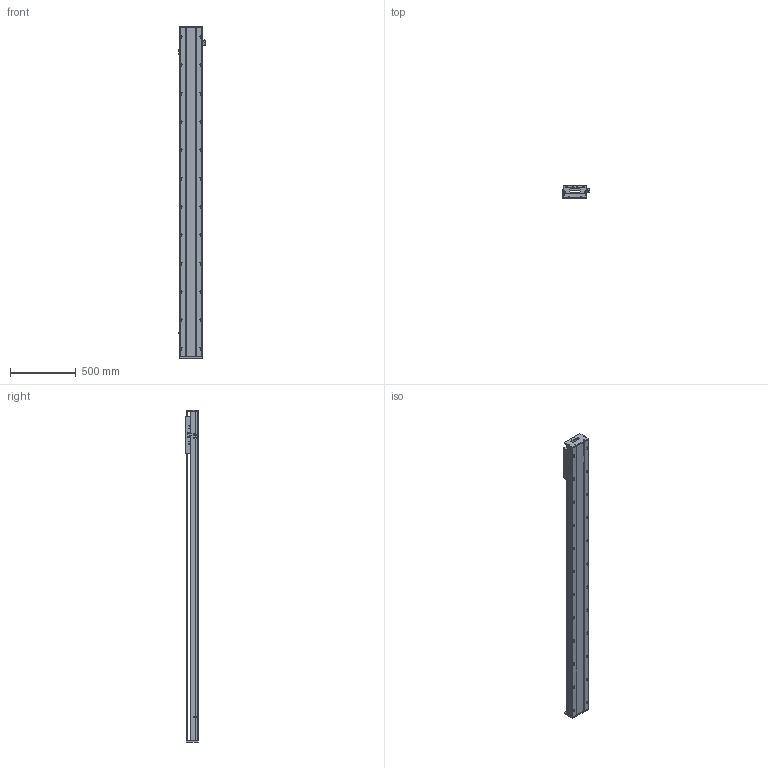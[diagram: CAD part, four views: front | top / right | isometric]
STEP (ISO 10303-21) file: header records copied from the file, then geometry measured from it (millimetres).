
FILE_DESCRIPTION (( 'STEP AP203' ), '1' );
FILE_NAME ('SKR17S-C2-S2152（简）.STEP', '2022-09-29T08:19:34', ( '' ), ( '' ), 'SwSTEP 2.0', 'SolidWorks 2018', '' );
FILE_SCHEMA (( 'CONFIG_CONTROL_DESIGN' ));
Length unit declared in the file: millimetre
Products named in the file (8): SKR17耜啣; SIKO棠掑; SKR17底座-C2-S2152（简); 棠掑假蚾輸; SKR17滑台-280L（简）; SKR17S-C2-S2152（简）; EE-SX672; 感应片（SKR12S-14S-17S）
Assembly tree (10 placements, depth 2):
  SKR17S-C2-S2152（简）
    SKR17底座-C2-S2152（简)
    SIKO棠掑
    EE-SX672  x3
    SKR17耜啣  x2
    棠掑假蚾輸
    SKR17滑台-280L（简）
    感应片（SKR12S-14S-17S）
Bounding box: 212.7 x 97 x 2532 mm (x, y, z)
Volume: 19671506.5 mm3; surface area: 2383484.5 mm2
Topology: 11 solids, 11 shells, 1384 faces, 3867 edges, 2481 vertices
Faces by surface type: cylinder 691, plane 551, cone 142
Entity records: 43299 total; most frequent: CARTESIAN_POINT 11775, ORIENTED_EDGE 6698, DIRECTION 6073, EDGE_CURVE 3349, VERTEX_POINT 2185, AXIS2_PLACEMENT_3D 2163, LINE 1747, VECTOR 1747
